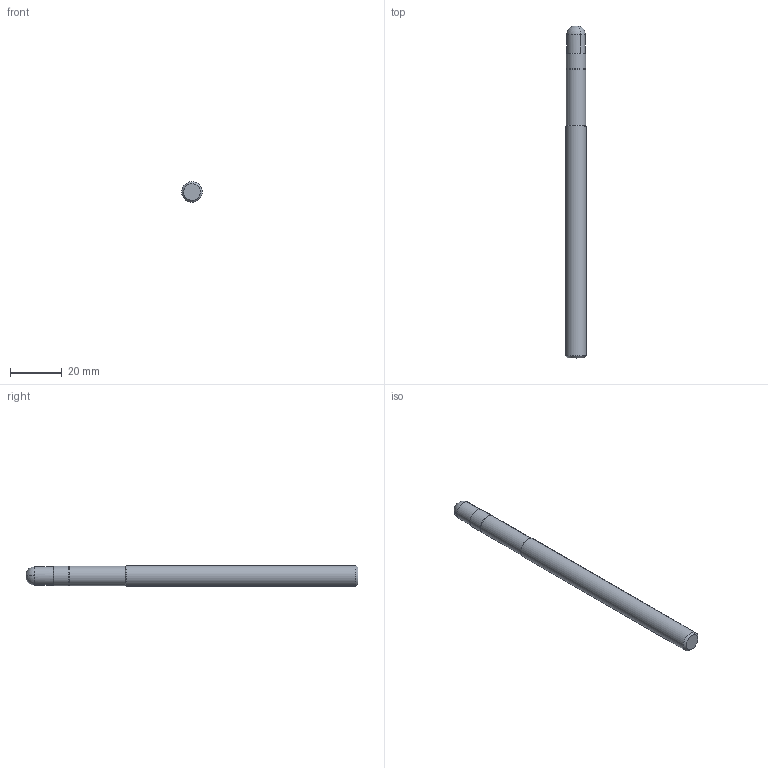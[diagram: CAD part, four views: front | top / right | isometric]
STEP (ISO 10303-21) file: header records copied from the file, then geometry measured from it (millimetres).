
FILE_DESCRIPTION (( 'STEP AP214' ), '1' );
FILE_NAME ('ZBC0802080.STEP', '2021-10-01T01:00:24', ( '' ), ( '' ), 'SwSTEP 2.0', 'SolidWorks 2018', '' );
FILE_SCHEMA (( 'AUTOMOTIVE_DESIGN' ));
Length unit declared in the file: millimetre
Products named in the file (1): ZBC0802080
Bounding box: 8 x 128.51 x 8 mm (x, y, z)
Volume: 6172.7 mm3; surface area: 3395.6 mm2
Topology: 3 solids, 3 shells, 32 faces, 67 edges, 39 vertices
Faces by surface type: cylinder 15, plane 6, sphere 4, bspline 4, cone 3
Entity records: 900 total; most frequent: CARTESIAN_POINT 169, DIRECTION 162, ORIENTED_EDGE 126, AXIS2_PLACEMENT_3D 70, EDGE_CURVE 63, CIRCLE 41, VERTEX_POINT 37, FACE_OUTER_BOUND 32
